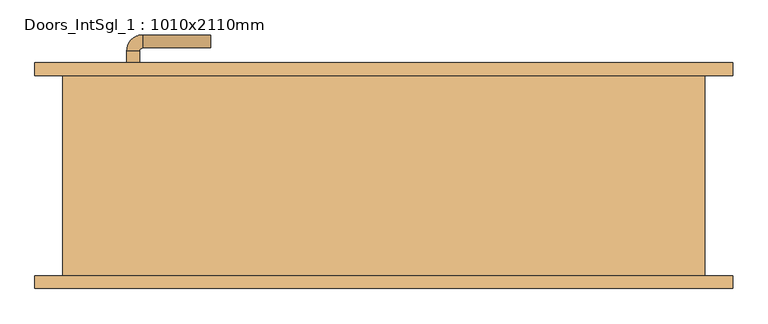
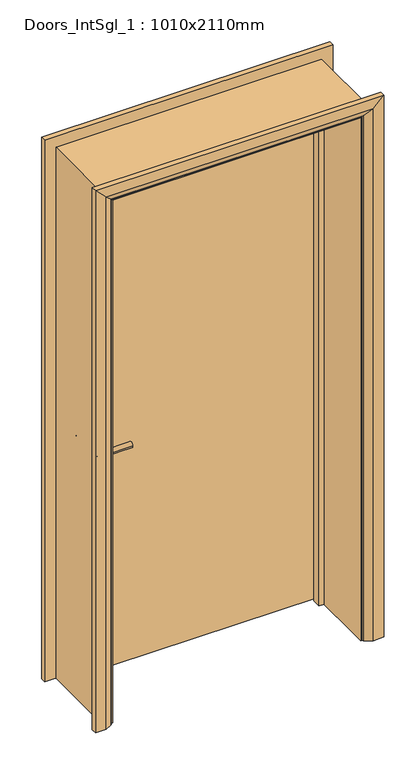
"""IFC4 building model written with IfcOpenShell, lengths in millimetres: door geometry, Doors_IntSgl_1 : 1010x2110mm."""

import ifcopenshell
import ifcopenshell.guid

model = None  # the IFC model being written
_history = None  # IfcOwnerHistory: only IFC2X3 demands one
_inside = {}  # id of a spatial element -> (the spatial element, [elements in it])
_under = {}  # id of a project, library or spatial element -> (it, [spatial elements below it])
_declared = {}  # id of a project -> (the project, [libraries it declares])
_typed = {}  # id of a type object -> (the type object, [elements of that type])
_made_of = {}  # id of a material, layer set ... -> (it, [elements and type objects made of it])


def new_model(schema):
    """Start an empty IFC model of exactly this schema.

    Asked for "IFC4X3", IfcOpenShell would pick the latest addendum, in which some entities
    have other attributes; the version numbers below select the first issue.
    IFC2X3 requires an IfcOwnerHistory on every rooted entity: one is made here for all.
    """
    global model, _history
    if schema == "IFC4X3":
        model = ifcopenshell.file(schema_version=(4, 3, 0, 0))
    else:
        model = ifcopenshell.file(schema=schema)
    _inside.clear()
    _under.clear()
    _declared.clear()
    _typed.clear()
    _made_of.clear()
    _history = None
    if model.schema == "IFC2X3":
        org = make("IfcOrganization", Name="unknown")
        user = make(
            "IfcPersonAndOrganization",
            ThePerson=make("IfcPerson", FamilyName="unknown"),
            TheOrganization=org,
        )
        app = make(
            "IfcApplication",
            ApplicationDeveloper=org,
            Version="unknown",
            ApplicationFullName="unknown",
            ApplicationIdentifier="unknown",
        )
        _history = make(
            "IfcOwnerHistory",
            OwningUser=user,
            OwningApplication=app,
            ChangeAction="ADDED",
            CreationDate=0,
        )
    return model


def make(cls, **values):
    """One entity of the class cls with the attributes given. An attribute that is None is left unset."""
    return model.create_entity(
        cls, **{name: value for name, value in values.items() if value is not None}
    )


def rooted(cls, **values):
    """An entity with a GlobalId (a new one), such as an element, a storey or a relation."""
    return make(cls, GlobalId=ifcopenshell.guid.new(), OwnerHistory=_history, **values)


def si_unit(unit_type, name, prefix=None):
    """IfcSIUnit, for example si_unit("LENGTHUNIT", "METRE", prefix="MILLI")."""
    return make("IfcSIUnit", UnitType=unit_type, Prefix=prefix, Name=name)


def assignment(units):
    """IfcUnitAssignment: the units of a project."""
    return None if units is None else make("IfcUnitAssignment", Units=units)


def point(xyz):
    """IfcCartesianPoint."""
    return None if xyz is None else make("IfcCartesianPoint", Coordinates=xyz)


def direction(xyz):
    """IfcDirection."""
    return None if xyz is None else make("IfcDirection", DirectionRatios=xyz)


def frame(location, z_axis=None, x_axis=None):
    """IfcAxis2Placement3D, a coordinate frame: its origin and axes. An axis left out is left unset."""
    return make(
        "IfcAxis2Placement3D",
        Location=point(location),
        Axis=direction(z_axis),
        RefDirection=direction(x_axis),
    )


def frame_2d(location, x_axis=None):
    """IfcAxis2Placement2D, a coordinate frame in the plane: its origin and x axis."""
    return make(
        "IfcAxis2Placement2D", Location=point(location), RefDirection=direction(x_axis)
    )


def origin():
    """The frame at (0, 0, 0) with its axes left unset."""
    return frame((0.0, 0.0, 0.0))


def place(relative_to, where):
    """IfcLocalPlacement: puts the frame where relative to a parent placement (None: the world)."""
    return make(
        "IfcLocalPlacement", PlacementRelTo=relative_to, RelativePlacement=where
    )


def context(
    kind, dimensions, precision=None, world=None, true_north=None, identifier=None
):
    """IfcGeometricRepresentationContext, for example the 3D "Model" context."""
    return make(
        "IfcGeometricRepresentationContext",
        ContextIdentifier=identifier,
        ContextType=kind,
        CoordinateSpaceDimension=dimensions,
        Precision=precision,
        WorldCoordinateSystem=world,
        TrueNorth=true_north,
    )


def project(units=None, contexts=None):
    """IfcProject with its units and contexts."""
    return rooted(
        "IfcProject",
        Name="project",
        RepresentationContexts=contexts,
        UnitsInContext=assignment(units),
    )


def spatial(cls, under=None, at=None, **own):
    """A site, building, storey or space (cls), placed at a placement, below another one or the project."""
    s = rooted(cls, ObjectPlacement=at, **own)
    if under is not None:
        _under.setdefault(under.id(), (under, []))[1].append(s)
    return s


def polyline(points):
    """IfcPolyline through the points."""
    return make("IfcPolyline", Points=[point(p) for p in points])


def circle_curve(where, radius):
    """IfcCircle in the frame where."""
    return make("IfcCircle", Position=where, Radius=radius)


def ellipse_curve(where, semi_axis1, semi_axis2):
    """IfcEllipse in the frame where."""
    return make(
        "IfcEllipse", Position=where, SemiAxis1=semi_axis1, SemiAxis2=semi_axis2
    )


def trimmed(basis, trim1, trim2, sense, master):
    """IfcTrimmedCurve: the piece of a basis curve between two trims."""
    return make(
        "IfcTrimmedCurve",
        BasisCurve=basis,
        Trim1=trim1,
        Trim2=trim2,
        SenseAgreement=sense,
        MasterRepresentation=master,
    )


def segment(curve, same_sense, transition):
    """IfcCompositeCurveSegment."""
    return make(
        "IfcCompositeCurveSegment",
        Transition=transition,
        SameSense=same_sense,
        ParentCurve=curve,
    )


def composite_curve(segments, self_intersect=None):
    """IfcCompositeCurve: segments joined end to end."""
    return make("IfcCompositeCurve", Segments=segments, SelfIntersect=self_intersect)


def outline(outer, holes=None, kind="AREA"):
    """IfcArbitraryClosedProfileDef: a profile drawn as a closed curve; with holes, ...WithVoids."""
    if holes is None:
        return make("IfcArbitraryClosedProfileDef", ProfileType=kind, OuterCurve=outer)
    return make(
        "IfcArbitraryProfileDefWithVoids",
        ProfileType=kind,
        OuterCurve=outer,
        InnerCurves=holes,
    )


def extrude(swept, where, along, depth):
    """IfcExtrudedAreaSolid: the profile swept, set in the frame where, extruded along a direction by depth."""
    return make(
        "IfcExtrudedAreaSolid",
        SweptArea=swept,
        Position=where,
        ExtrudedDirection=direction(along),
        Depth=depth,
    )


def faces_of(points, faces, orient=None, outer=None):
    """IfcFace entities. A face is a list of loops; a loop is a list of indices into points, from 0.

    orient and outer hold one flag for each loop. By default every Orientation is true, the
    first loop of a face is its IfcFaceOuterBound and the others are IfcFaceBound.
    """
    made = []
    for i, loops in enumerate(faces):
        bounds = []
        for j, loop in enumerate(loops):
            is_outer = j == 0 if outer is None else outer[i][j]
            bounds.append(
                make(
                    "IfcFaceOuterBound" if is_outer else "IfcFaceBound",
                    Bound=make("IfcPolyLoop", Polygon=[points[k] for k in loop]),
                    Orientation=True if orient is None else orient[i][j],
                )
            )
        made.append(make("IfcFace", Bounds=bounds))
    return made


def faceted_brep(points, faces, orient=None, outer=None, voids=None):
    """IfcFacetedBrep: a solid bounded by flat faces; with voids (closed shells), ...WithVoids."""
    shared = [point(p) for p in points]
    hull = make("IfcClosedShell", CfsFaces=faces_of(shared, faces, orient, outer))
    if voids is None:
        return make("IfcFacetedBrep", Outer=hull)
    return make(
        "IfcFacetedBrepWithVoids",
        Outer=hull,
        Voids=[
            make(cls, CfsFaces=faces_of(shared, fs, o, b)) for cls, fs, o, b in voids
        ],
    )


def shape(context_of_items, identifier, shape_type, items):
    """IfcShapeRepresentation: the items that make up one representation, for example the "Body"."""
    return make(
        "IfcShapeRepresentation",
        ContextOfItems=context_of_items,
        RepresentationIdentifier=identifier,
        RepresentationType=shape_type,
        Items=items,
    )


def source(mapping_origin, context_of_items, identifier, shape_type, items):
    """IfcRepresentationMap: a shape defined once, which mapped items show again and again."""
    return make(
        "IfcRepresentationMap",
        MappingOrigin=mapping_origin,
        MappedRepresentation=shape(context_of_items, identifier, shape_type, items),
    )


def transform(
    local_origin,
    x_axis=None,
    y_axis=None,
    z_axis=None,
    scale=None,
    scale2=None,
    scale3=None,
    uniform=True,
):
    """IfcCartesianTransformationOperator3D, or its non-uniform kind. x_axis, y_axis, z_axis: its Axis1, 2, 3."""
    if uniform:
        return make(
            "IfcCartesianTransformationOperator3D",
            Axis1=direction(x_axis),
            Axis2=direction(y_axis),
            LocalOrigin=point(local_origin),
            Scale=scale,
            Axis3=direction(z_axis),
        )
    return make(
        "IfcCartesianTransformationOperator3DnonUniform",
        Axis1=direction(x_axis),
        Axis2=direction(y_axis),
        LocalOrigin=point(local_origin),
        Scale=scale,
        Axis3=direction(z_axis),
        Scale2=scale2,
        Scale3=scale3,
    )


def mapped(mapping_source, mapping_target):
    """IfcMappedItem: shows the shape of a source again, moved by a transform."""
    return make(
        "IfcMappedItem", MappingSource=mapping_source, MappingTarget=mapping_target
    )


def made_of(thing, what):
    """Note that an element or type object is made of a material, layer set ...; save() writes the relation."""
    if what is not None:
        _made_of.setdefault(what.id(), (what, []))[1].append(thing)
    return thing


def element(
    cls,
    number,
    at=None,
    inside=None,
    cuts=None,
    type_object=None,
    material=None,
    context=None,
    identifier="Body",
    shape_type=None,
    held_by="IfcProductDefinitionShape",
    body=None,
    shapes=None,
    **own,
):
    """One element of the class cls, such as IfcWall. Its Tag is "e" and its number.

    at: its placement. inside: the storey or other place that contains it. cuts: it is an
    opening in that element (IfcRelVoidsElement). A single representation is given by context,
    identifier, shape_type and body (its items); several are given by shapes. held_by: the class
    of the entity that holds the representations. save() writes the other relations.
    """
    e = rooted(cls, Tag="e%d" % number, ObjectPlacement=at, **own)
    if body is not None:
        shapes = [shape(context, identifier, shape_type, body)]
    if shapes is not None:
        e.Representation = make(held_by, Representations=shapes)
    if inside is not None:
        _inside.setdefault(inside.id(), (inside, []))[1].append(e)
    if cuts is not None:
        rooted(
            "IfcRelVoidsElement", RelatingBuildingElement=cuts, RelatedOpeningElement=e
        )
    if type_object is not None:
        _typed.setdefault(type_object.id(), (type_object, []))[1].append(e)
    return made_of(e, material)


def aggregate(whole, parts):
    """IfcRelAggregates: a whole, such as a stair, and the parts it consists of."""
    return rooted("IfcRelAggregates", RelatingObject=whole, RelatedObjects=parts)


def save(model, path):
    """Write the relations noted so far, then the file.

    IfcRelAggregates (storeys below a building ...), IfcRelContainedInSpatialStructure (elements
    in a storey), IfcRelDefinesByType, IfcRelAssociatesMaterial and IfcRelDeclares: one each for
    every whole, place, type object, material and project.
    """
    for whole, parts in _under.values():
        aggregate(whole, parts)
    for where, things in _inside.values():
        rooted(
            "IfcRelContainedInSpatialStructure",
            RelatedElements=things,
            RelatingStructure=where,
        )
    for kind, things in _typed.values():
        rooted("IfcRelDefinesByType", RelatedObjects=things, RelatingType=kind)
    for what, things in _made_of.values():
        rooted("IfcRelAssociatesMaterial", RelatedObjects=things, RelatingMaterial=what)
    for by, libraries in _declared.values():
        rooted("IfcRelDeclares", RelatingContext=by, RelatedDefinitions=libraries)
    model.write(path)


def plane_surface(at):
    """IfcPlane: the flat surface through the origin of the frame at, square to its z axis."""
    return make("IfcPlane", Position=at)


def cylinder_surface(at, radius):
    """IfcCylindricalSurface: all points at the distance radius from the z axis of the frame at."""
    return make("IfcCylindricalSurface", Position=at, Radius=radius)


def revolved_surface(curve, axis_point, axis_direction):
    """IfcSurfaceOfRevolution: the curve turned about the line through axis_point along axis_direction."""
    return make(
        "IfcSurfaceOfRevolution",
        SweptCurve=make("IfcArbitraryOpenProfileDef", ProfileType="CURVE", Curve=curve),
        AxisPosition=make("IfcAxis1Placement", Location=point(axis_point), Axis=direction(axis_direction)),
    )


def advanced_brep(points, edges, surfaces, faces):
    """IfcAdvancedBrep: a solid bounded by faces that lie on surfaces and meet in shared edges.

    An edge is (start, end): straight between two places in points (the first is 0);
    or (start, end, curve); or (start, end, curve, False) where it runs against its curve.
    A face is (place in surfaces, loops), or (place, loops, False) where it looks against
    its surface's normal. A loop lists edges by number (the first is 1), with a minus sign
    where the edge is run from its end to its start. The first loop is the outer one.
    """
    corners = [point(p) for p in points]
    vertices = [make("IfcVertexPoint", VertexGeometry=c) for c in corners]
    made = []
    for start, end, *more in edges:
        made.append(
            make(
                "IfcEdgeCurve",
                EdgeStart=vertices[start],
                EdgeEnd=vertices[end],
                EdgeGeometry=more[0] if more else make("IfcPolyline", Points=[corners[start], corners[end]]),
                SameSense=more[1] if len(more) > 1 else True,
            )
        )
    hull = []
    for where, loops, *sense in faces:
        bounds = []
        for j, loop in enumerate(loops):
            ring = [make("IfcOrientedEdge", EdgeElement=made[abs(k) - 1], Orientation=k > 0) for k in loop]
            bounds.append(
                make(
                    "IfcFaceOuterBound" if j == 0 else "IfcFaceBound",
                    Bound=make("IfcEdgeLoop", EdgeList=ring),
                    Orientation=True,
                )
            )
        hull.append(make("IfcAdvancedFace", Bounds=bounds, FaceSurface=surfaces[where], SameSense=sense[0] if sense else True))
    return make("IfcAdvancedBrep", Outer=make("IfcClosedShell", CfsFaces=hull))


def doors_intsgl_1_1010x2110mm_5517da8e(model_context):
    return source(origin(), model_context, "Body", "SolidModel", [
        advanced_brep(
        [(-398.0, 109.0, 900.0), (-378.0, 109.0, 900.0), (-378.0, 79.0, 900.0), (-398.0, 79.0, 900.0), (-373.0, 74.0, 900.0), (-373.0, 54.0, 900.0), (-268.0, 54.0, 900.0), (-268.0, 74.0, 900.0)],
        [
            (0, 1, circle_curve(frame((-388.0, 109.0, 900.0), z_axis=(0.0, 1.0, 0.0), x_axis=(1.0, 0.0, 0.0)), 10.0)),
            (1, 0, circle_curve(frame((-388.0, 109.0, 900.0), z_axis=(0.0, 1.0, 0.0), x_axis=(1.0, 0.0, 0.0)), 10.0)),
            (1, 2),
            (2, 3, circle_curve(frame((-388.0, 79.0, 900.0), z_axis=(0.0, 1.0, 0.0), x_axis=(1.0, 0.0, 0.0)), 10.0)),
            (3, 0),
            (3, 2, circle_curve(frame((-388.0, 79.0, 900.0), z_axis=(0.0, 1.0, 0.0), x_axis=(1.0, 0.0, 0.0)), 10.0)),
            (4, 5, circle_curve(frame((-373.0, 64.0, 900.0), z_axis=(-1.0, 0.0, 0.0), x_axis=(0.0, 1.0, 0.0)), 10.0)),
            (5, 3, circle_curve(frame((-373.0, 79.0, 900.0), z_axis=(0.0, 0.0, -1.0), x_axis=(-1.0, 0.0, 0.0)), 25.0)),
            (2, 4, circle_curve(frame((-373.0, 79.0, 900.0), z_axis=(0.0, 0.0, 1.0), x_axis=(-1.0, 0.0, 0.0)), 5.0)),
            (5, 4, circle_curve(frame((-373.0, 64.0, 900.0), z_axis=(-1.0, 0.0, 0.0), x_axis=(0.0, 1.0, 0.0)), 10.0)),
            (6, 7, circle_curve(frame((-268.0, 64.0, 900.0), z_axis=(1.0, 0.0, 0.0), x_axis=(0.0, 1.0, 0.0)), 10.0)),
            (7, 6, circle_curve(frame((-268.0, 64.0, 900.0), z_axis=(1.0, 0.0, 0.0), x_axis=(0.0, 1.0, 0.0)), 10.0)),
            (4, 7),
            (6, 5),
        ],
        [
            plane_surface(frame((-388.0, 109.0, 900.0), z_axis=(0.0, 1.0, 0.0), x_axis=(0.0, 0.0, 1.0))),
            cylinder_surface(frame((-388.0, 109.0, 900.0), z_axis=(0.0, 1.0, 0.0), x_axis=(1.0, 0.0, 0.0)), 10.0),
            revolved_surface(trimmed(ellipse_curve(frame((-388.0, 79.0, 900.0), z_axis=(0.0, -1.0, 0.0), x_axis=(1.0, 0.0, 0.0)), 10.0, 10.0), [point((-398.0, 79.0, 900.0))], [point((-378.0, 79.0, 900.0))], True, "CARTESIAN"), (-373.0, 79.0, 900.0), (0.0, 0.0, -1.0)),
            revolved_surface(trimmed(ellipse_curve(frame((-388.0, 79.0, 900.0), z_axis=(0.0, -1.0, 0.0), x_axis=(1.0, 0.0, 0.0)), 10.0, 10.0), [point((-378.0, 79.0, 900.0))], [point((-398.0, 79.0, 900.0))], True, "CARTESIAN"), (-373.0, 79.0, 900.0), (0.0, 0.0, -1.0)),
            plane_surface(frame((-268.0, 64.0, 900.0), z_axis=(1.0, 0.0, 0.0), x_axis=(0.0, 0.0, 1.0))),
            cylinder_surface(frame((-373.0, 64.0, 900.0), z_axis=(-1.0, 0.0, 0.0), x_axis=(0.0, 1.0, 0.0)), 10.0),
        ],
        [
            (0, [[1, 2]]),
            (1, [[3, 4, 5, -2]]),
            (1, [[-5, 6, -3, -1]]),
            (2, [[7, 8, -4, 9]]),
            (3, [[10, -9, -6, -8]]),
            (4, [[11, 12]]),
            (5, [[13, -11, 14, -7]]),
            (5, [[-14, -12, -13, -10]]),
        ],
    ),
        extrude(outline(composite_curve([segment(trimmed(circle_curve(frame_2d((900.0, -390.5)), 30.0), [point((900.0, -420.5))], [point((900.0, -360.5))], False, "CARTESIAN"), True, "CONTINUOUS"), segment(trimmed(circle_curve(frame_2d((900.0, -390.5)), 30.0), [point((900.0, -360.5))], [point((900.0, -420.5))], False, "CARTESIAN"), True, "CONTINUOUS")], self_intersect=False)), frame((0.0, 109.0, 0.0), z_axis=(0.0, 1.0, 0.0), x_axis=(0.0, 0.0, 1.0)), (0.0, 0.0, 1.0), 8.0),
        advanced_brep(
        [(-398.0, 163.0, 900.0), (-378.0, 163.0, 900.0), (-398.0, 193.0, 900.0), (-378.0, 193.0, 900.0), (-373.0, 198.0, 900.0), (-373.0, 218.0, 900.0), (-268.0, 218.0, 900.0), (-268.0, 198.0, 900.0)],
        [
            (0, 1, circle_curve(frame((-388.0, 163.0, 900.0), z_axis=(0.0, -1.0, 0.0), x_axis=(1.0, 0.0, 0.0)), 10.0)),
            (1, 0, circle_curve(frame((-388.0, 163.0, 900.0), z_axis=(0.0, -1.0, 0.0), x_axis=(1.0, 0.0, 0.0)), 10.0)),
            (0, 2),
            (2, 3, circle_curve(frame((-388.0, 193.0, 900.0), z_axis=(0.0, -1.0, 0.0), x_axis=(1.0, 0.0, 0.0)), 10.0)),
            (3, 1),
            (3, 2, circle_curve(frame((-388.0, 193.0, 900.0), z_axis=(0.0, -1.0, 0.0), x_axis=(1.0, 0.0, 0.0)), 10.0)),
            (4, 3, circle_curve(frame((-373.0, 193.0, 900.0), z_axis=(0.0, 0.0, 1.0), x_axis=(-1.0, 0.0, 0.0)), 5.0)),
            (2, 5, circle_curve(frame((-373.0, 193.0, 900.0), z_axis=(0.0, 0.0, -1.0), x_axis=(-1.0, 0.0, 0.0)), 25.0)),
            (5, 4, circle_curve(frame((-373.0, 208.0, 900.0), z_axis=(-1.0, 0.0, 0.0), x_axis=(0.0, -1.0, 0.0)), 10.0)),
            (4, 5, circle_curve(frame((-373.0, 208.0, 900.0), z_axis=(-1.0, 0.0, 0.0), x_axis=(0.0, -1.0, 0.0)), 10.0)),
            (6, 7, circle_curve(frame((-268.0, 208.0, 900.0), z_axis=(1.0, 0.0, 0.0), x_axis=(0.0, -1.0, 0.0)), 10.0)),
            (7, 6, circle_curve(frame((-268.0, 208.0, 900.0), z_axis=(1.0, 0.0, 0.0), x_axis=(0.0, -1.0, 0.0)), 10.0)),
            (5, 6),
            (7, 4),
        ],
        [
            plane_surface(frame((-388.0, 163.0, 900.0), z_axis=(0.0, -1.0, 0.0), x_axis=(0.0, 0.0, 1.0))),
            cylinder_surface(frame((-388.0, 163.0, 900.0), z_axis=(0.0, -1.0, 0.0), x_axis=(1.0, 0.0, 0.0)), 10.0),
            revolved_surface(trimmed(ellipse_curve(frame((-388.0, 193.0, 900.0), z_axis=(0.0, -1.0, 0.0), x_axis=(1.0, 0.0, 0.0)), 10.0, 10.0), [point((-398.0, 193.0, 900.0))], [point((-378.0, 193.0, 900.0))], True, "CARTESIAN"), (-373.0, 193.0, 900.0), (0.0, 0.0, -1.0)),
            revolved_surface(trimmed(ellipse_curve(frame((-388.0, 193.0, 900.0), z_axis=(0.0, -1.0, 0.0), x_axis=(1.0, 0.0, 0.0)), 10.0, 10.0), [point((-378.0, 193.0, 900.0))], [point((-398.0, 193.0, 900.0))], True, "CARTESIAN"), (-373.0, 193.0, 900.0), (0.0, 0.0, -1.0)),
            plane_surface(frame((-268.0, 208.0, 900.0), z_axis=(1.0, 0.0, 0.0), x_axis=(0.0, 0.0, 1.0))),
            cylinder_surface(frame((-373.0, 208.0, 900.0), z_axis=(-1.0, 0.0, 0.0), x_axis=(0.0, -1.0, 0.0)), 10.0),
        ],
        [
            (0, [[1, 2]]),
            (1, [[-1, 3, 4, 5]]),
            (1, [[-2, -5, 6, -3]]),
            (2, [[7, -4, 8, 9]]),
            (3, [[-8, -6, -7, 10]]),
            (4, [[11, 12]]),
            (5, [[-9, 13, -12, 14]]),
            (5, [[-10, -14, -11, -13]]),
        ],
    ),
        extrude(outline(composite_curve([segment(trimmed(circle_curve(frame_2d((900.0, -390.5)), 30.0), [point((900.0, -420.5))], [point((900.0, -360.5))], False, "CARTESIAN"), True, "CONTINUOUS"), segment(trimmed(circle_curve(frame_2d((900.0, -390.5)), 30.0), [point((900.0, -360.5))], [point((900.0, -420.5))], False, "CARTESIAN"), True, "CONTINUOUS")], self_intersect=False)), frame((0.0, 155.0, 0.0), z_axis=(0.0, 1.0, 0.0), x_axis=(0.0, 0.0, 1.0)), (0.0, 0.0, 1.0), 8.0),
        extrude(outline(polyline([(463.0, 117.0), (-463.0, 117.0), (-463.0, 155.0), (463.0, 155.0), (463.0, 117.0)])), frame((0.0, 0.0, 8.0), z_axis=(0.0, 0.0, 1.0), x_axis=(1.0, 0.0, 0.0)), (0.0, 0.0, 1.0), 2060.0),
        advanced_brep(
        [(540.0, 175.0, 0.0), (540.0, 155.0, 0.0), (470.0, 155.0, 0.0), (474.0, 161.0, 0.0), (500.0, 175.0, 0.0), (540.0, 175.0, 2145.0), (540.0, 155.0, 2145.0), (-540.0, 155.0, 2145.0), (-540.0, 155.0, 0.0), (-470.0, 155.0, 0.0), (-470.0, 155.0, 2075.0), (470.0, 155.0, 2075.0), (474.0, 161.0, 2079.0), (500.0, 175.0, 2105.0), (-500.0, 175.0, 2105.0), (-500.0, 175.0, 0.0), (-540.0, 175.0, 0.0), (-540.0, 175.0, 2145.0), (-474.0, 161.0, 0.0), (-474.0, 161.0, 2079.0)],
        [
            (0, 1),
            (1, 2),
            (2, 3, circle_curve(frame((478.0, 154.0, 0.0), z_axis=(0.0, 0.0, -1.0), x_axis=(1.0, 0.0, 0.0)), 8.0622577)),
            (3, 4),
            (4, 0),
            (0, 5),
            (5, 6),
            (6, 1),
            (6, 7),
            (7, 8),
            (8, 9),
            (9, 10),
            (10, 11),
            (11, 2),
            (11, 12, ellipse_curve(frame((478.0, 154.0, 2083.0), z_axis=(0.7071067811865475, 0.0, -0.7071067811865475), x_axis=(-0.7071067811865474, 0.0, -0.7071067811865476)), 11.4017543, 8.0622577)),
            (12, 3),
            (12, 13),
            (13, 4),
            (13, 14),
            (14, 15),
            (15, 16),
            (16, 17),
            (17, 5),
            (7, 17),
            (16, 8),
            (15, 18),
            (18, 9, circle_curve(frame((-478.0, 154.0, 0.0), z_axis=(0.0, 0.0, -1.0), x_axis=(-1.0, 0.0, 0.0)), 8.0622577)),
            (19, 10, ellipse_curve(frame((-478.0, 154.0, 2083.0), z_axis=(-0.7071067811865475, 0.0, -0.7071067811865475), x_axis=(-0.7071067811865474, 0.0, 0.7071067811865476)), 11.4017543, 8.0622577)),
            (18, 19),
            (14, 19),
            (19, 12),
        ],
        [
            plane_surface(frame((470.0, 155.0, 0.0), z_axis=(0.0, 0.0, -1.0), x_axis=(0.0, -1.0, 0.0))),
            plane_surface(frame((540.0, 175.0, 0.0), z_axis=(1.0, 0.0, 0.0), x_axis=(0.0, 0.0, 1.0))),
            plane_surface(frame((540.0, 155.0, 0.0), z_axis=(0.0, -1.0, 0.0), x_axis=(0.0, 0.0, 1.0))),
            cylinder_surface(frame((478.0, 154.0, 0.0), z_axis=(0.0, 0.0, -1.0), x_axis=(1.0, 0.0, 0.0)), 8.0622577),
            plane_surface(frame((474.0, 161.0, 0.0), z_axis=(-0.4740998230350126, 0.880471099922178, 0.0), x_axis=(0.0, 0.0, 1.0))),
            plane_surface(frame((500.0, 175.0, 0.0), z_axis=(0.0, 1.0, 0.0), x_axis=(0.0, 0.0, 1.0))),
            plane_surface(frame((-540.0, 175.0, 2145.0), z_axis=(-1.0, 0.0, 0.0), x_axis=(0.0, 0.0, -1.0))),
            plane_surface(frame((-470.0, 155.0, 0.0), z_axis=(0.0, 0.0, -1.0), x_axis=(0.0, -1.0, 0.0))),
            cylinder_surface(frame((-478.0, 154.0, 2075.0), z_axis=(0.0, 0.0, 1.0), x_axis=(-1.0, 0.0, 0.0)), 8.0622577),
            plane_surface(frame((-474.0, 161.0, 2079.0), z_axis=(0.47409982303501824, 0.8804710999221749, 0.0), x_axis=(0.0, 0.0, -1.0))),
            plane_surface(frame((540.0, 175.0, 2145.0), z_axis=(0.0, 0.0, 1.0), x_axis=(-1.0, 0.0, 0.0))),
            cylinder_surface(frame((470.0, 154.0, 2083.0), z_axis=(1.0, 0.0, 0.0), x_axis=(0.0, 0.0, 1.0)), 8.0622577),
            plane_surface(frame((474.0, 161.0, 2079.0), z_axis=(0.0, 0.8804710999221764, -0.4740998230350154), x_axis=(-1.0, 0.0, 0.0))),
        ],
        [
            (0, [[1, 2, 3, 4, 5]]),
            (1, [[-1, 6, 7, 8]]),
            (2, [[-2, -8, 9, 10, 11, 12, 13, 14]]),
            (3, [[-3, -14, 15, 16]]),
            (4, [[-4, -16, 17, 18]]),
            (5, [[-5, -18, 19, 20, 21, 22, 23, -6]]),
            (6, [[24, -22, 25, -10]]),
            (7, [[-21, 26, 27, -11, -25]]),
            (8, [[28, -12, -27, 29]]),
            (9, [[30, -29, -26, -20]]),
            (10, [[-7, -23, -24, -9]]),
            (11, [[-15, -13, -28, 31]]),
            (12, [[-17, -31, -30, -19]]),
        ],
    ),
        extrude(outline(polyline([(0.0, -465.0), (0.0, -446.0), (2051.0, -446.0), (2051.0, 446.0), (0.0, 446.0), (0.0, 465.0), (2070.0, 465.0), (2070.0, -465.0), (0.0, -465.0)])), frame((0.0, 83.0, 0.0), z_axis=(0.0, 1.0, 0.0), x_axis=(0.0, 0.0, 1.0)), (0.0, 0.0, 1.0), 32.0),
        advanced_brep(
        [(-540.0, -175.0, 0.0), (-540.0, -155.0, 0.0), (-470.0, -155.0, 0.0), (-474.0, -161.0, 0.0), (-500.0, -175.0, 0.0), (-540.0, -175.0, 2145.0), (-540.0, -155.0, 2145.0), (-470.0, -155.0, 2075.0), (-474.0, -161.0, 2079.0), (-500.0, -175.0, 2105.0), (540.0, -175.0, 0.0), (500.0, -175.0, 0.0), (474.0, -161.0, 0.0), (470.0, -155.0, 0.0), (540.0, -155.0, 0.0), (540.0, -175.0, 2145.0), (500.0, -175.0, 2105.0), (474.0, -161.0, 2079.0), (470.0, -155.0, 2075.0), (540.0, -155.0, 2145.0)],
        [
            (0, 1),
            (1, 2),
            (2, 3, circle_curve(frame((-478.0, -154.0, 0.0), z_axis=(0.0, 0.0, -1.0), x_axis=(-1.0, 0.0, 0.0)), 8.0622577)),
            (3, 4),
            (4, 0),
            (0, 5),
            (5, 6),
            (6, 1),
            (6, 7),
            (7, 2),
            (7, 8, ellipse_curve(frame((-478.0, -154.0, 2083.0), z_axis=(-0.7071067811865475, 0.0, -0.7071067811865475), x_axis=(0.7071067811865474, 0.0, -0.7071067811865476)), 11.4017543, 8.0622577)),
            (8, 3),
            (8, 9),
            (9, 4),
            (9, 5),
            (10, 11),
            (11, 12),
            (12, 13, circle_curve(frame((478.0, -154.0, 0.0), z_axis=(0.0, 0.0, -1.0), x_axis=(1.0, 0.0, 0.0)), 8.0622577)),
            (13, 14),
            (14, 10),
            (15, 16),
            (16, 11),
            (10, 15),
            (16, 17),
            (17, 12),
            (17, 18, ellipse_curve(frame((478.0, -154.0, 2083.0), z_axis=(0.7071067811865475, 0.0, -0.7071067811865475), x_axis=(0.7071067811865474, 0.0, 0.7071067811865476)), 11.4017543, 8.0622577)),
            (18, 13),
            (18, 19),
            (19, 14),
            (19, 15),
            (5, 15),
            (19, 6),
            (18, 7),
            (17, 8),
            (16, 9),
        ],
        [
            plane_surface(frame((-470.0, -227.8010989, 0.0), z_axis=(0.0, 0.0, -1.0), x_axis=(1.0, 0.0, 0.0))),
            plane_surface(frame((-540.0, -175.0, 0.0), z_axis=(-1.0, 0.0, 0.0), x_axis=(0.0, 0.0, 1.0))),
            plane_surface(frame((-540.0, -155.0, 0.0), z_axis=(0.0, 1.0, 0.0), x_axis=(0.0, 0.0, 1.0))),
            cylinder_surface(frame((-478.0, -154.0, 0.0), z_axis=(0.0, 0.0, -1.0), x_axis=(-1.0, 0.0, 0.0)), 8.0622577),
            plane_surface(frame((-474.0, -161.0, 0.0), z_axis=(0.4740998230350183, -0.8804710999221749, 0.0), x_axis=(0.0, 0.0, 1.0))),
            plane_surface(frame((-500.0, -175.0, 0.0), z_axis=(0.0, -1.0, 0.0), x_axis=(0.0, 0.0, 1.0))),
            plane_surface(frame((470.0, -227.8010989, 0.0), z_axis=(0.0, 0.0, -1.0), x_axis=(-1.0, 0.0, 0.0))),
            plane_surface(frame((500.0, -175.0, 2105.0), z_axis=(0.0, -1.0, 0.0), x_axis=(0.0, 0.0, -1.0))),
            plane_surface(frame((474.0, -161.0, 2079.0), z_axis=(-0.4740998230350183, -0.8804710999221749, 0.0), x_axis=(0.0, 0.0, -1.0))),
            cylinder_surface(frame((478.0, -154.0, 2075.0), z_axis=(0.0, 0.0, 1.0), x_axis=(1.0, 0.0, 0.0)), 8.0622577),
            plane_surface(frame((540.0, -155.0, 2145.0), z_axis=(0.0, 1.0, 0.0), x_axis=(0.0, 0.0, -1.0))),
            plane_surface(frame((540.0, -175.0, 2145.0), z_axis=(1.0, 0.0, 0.0), x_axis=(0.0, 0.0, -1.0))),
            plane_surface(frame((-540.0, -175.0, 2145.0), z_axis=(0.0, 0.0, 1.0), x_axis=(1.0, 0.0, 0.0))),
            plane_surface(frame((-540.0, -155.0, 2145.0), z_axis=(0.0, 1.0, 0.0), x_axis=(1.0, 0.0, 0.0))),
            cylinder_surface(frame((-470.0, -154.0, 2083.0), z_axis=(-1.0, 0.0, 0.0), x_axis=(0.0, 0.0, 1.0)), 8.0622577),
            plane_surface(frame((-474.0, -161.0, 2079.0), z_axis=(0.0, -0.8804710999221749, -0.4740998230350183), x_axis=(1.0, 0.0, 0.0))),
            plane_surface(frame((-500.0, -175.0, 2105.0), z_axis=(0.0, -1.0, 0.0), x_axis=(1.0, 0.0, 0.0))),
        ],
        [
            (0, [[1, 2, 3, 4, 5]]),
            (1, [[-1, 6, 7, 8]]),
            (2, [[-2, -8, 9, 10]]),
            (3, [[-3, -10, 11, 12]]),
            (4, [[-4, -12, 13, 14]]),
            (5, [[-5, -14, 15, -6]]),
            (6, [[16, 17, 18, 19, 20]]),
            (7, [[21, 22, -16, 23]]),
            (8, [[24, 25, -17, -22]]),
            (9, [[26, 27, -18, -25]]),
            (10, [[28, 29, -19, -27]]),
            (11, [[30, -23, -20, -29]]),
            (12, [[-7, 31, -30, 32]]),
            (13, [[-9, -32, -28, 33]]),
            (14, [[-11, -33, -26, 34]]),
            (15, [[-13, -34, -24, 35]]),
            (16, [[-15, -35, -21, -31]]),
        ],
    ),
        faceted_brep([(-465.0, 155.0, 0.0), (-465.0, -155.0, 0.0), (-497.0, -155.0, 0.0), (-497.0, 155.0, 0.0), (-465.0, 155.0, 2070.0), (-465.0, -155.0, 2070.0), (-497.0, -155.0, 2102.0), (-497.0, 155.0, 2102.0), (465.0, 155.0, 0.0), (497.0, 155.0, 0.0), (497.0, -155.0, 0.0), (465.0, -155.0, 0.0), (465.0, 155.0, 2070.0), (497.0, 155.0, 2102.0), (497.0, -155.0, 2102.0), (465.0, -155.0, 2070.0)], [[[0, 1, 2, 3]], [[1, 0, 4, 5]], [[2, 1, 5, 6]], [[3, 2, 6, 7]], [[0, 3, 7, 4]], [[8, 9, 10, 11]], [[12, 13, 9, 8]], [[13, 14, 10, 9]], [[14, 15, 11, 10]], [[15, 12, 8, 11]], [[5, 4, 12, 15]], [[6, 5, 15, 14]], [[7, 6, 14, 13]], [[4, 7, 13, 12]]]),
    ])


if __name__ == "__main__":
    model = new_model("IFC4")
    model_context = context("Model", 3, world=origin())
    ifc_project = project(units=[si_unit("LENGTHUNIT", "METRE", prefix="MILLI")], contexts=[model_context])
    site = spatial("IfcSite", under=ifc_project)
    building = spatial("IfcBuilding", under=site)
    placement = place(None, origin())
    doors_intsgl_1_1010x2110mm_shape = doors_intsgl_1_1010x2110mm_5517da8e(model_context)
    element("IfcDoor", 1, ObjectType="Doors_IntSgl_1 : 1010x2110mm", at=placement, inside=building, context=model_context, shape_type="MappedRepresentation", body=[
        mapped(doors_intsgl_1_1010x2110mm_shape, transform((0.0, 0.0, 0.0), x_axis=(1.0, 0.0, 0.0), y_axis=(0.0, 1.0, 0.0), z_axis=(0.0, 0.0, 1.0))),
    ])
    save(model, "model.ifc")
